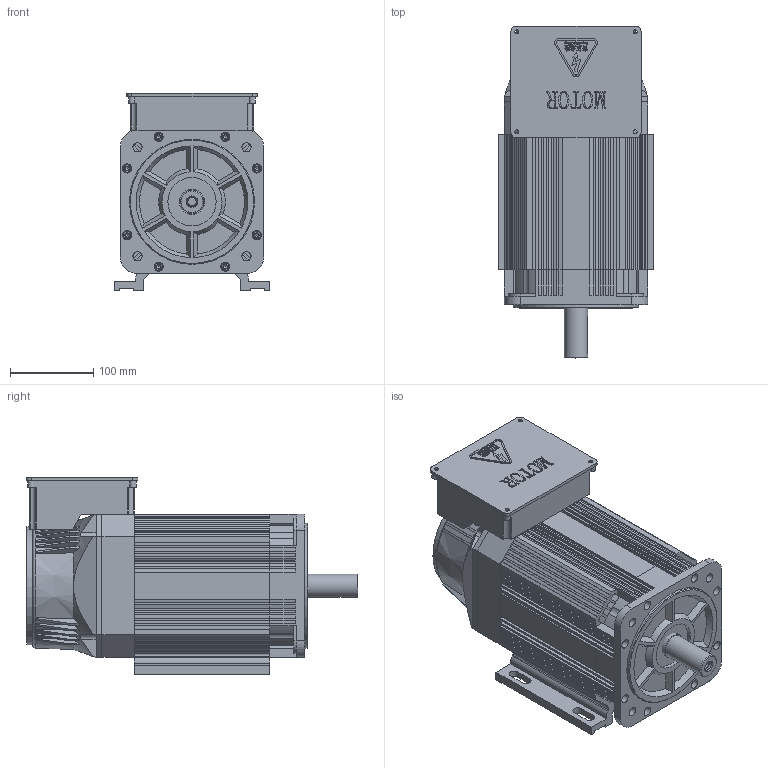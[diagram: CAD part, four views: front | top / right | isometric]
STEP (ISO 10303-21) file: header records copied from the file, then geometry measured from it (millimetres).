
FILE_DESCRIPTION(/* description */ (''),/* implementation_level */ '2;1');
FILE_NAME(/* name */ '172ZJY-4-4-15(加脚).stp',/* time_stamp */ '2024-01-15T11:15:53+08:00',/* author */ (''),/* organization */ (''),/* preprocessor_version */ 'ST-DEVELOPER v18.1',/* originating_system */ 'SIEMENS PLM Software NX 2000',/* authorisation */ '');
FILE_SCHEMA (('AUTOMOTIVE_DESIGN { 1 0 10303 214 3 1 1 1 }'));
Products named in the file (1): 172主轴伺服电机 加脚
Bounding box: 186 x 398 x 237.5 mm (x, y, z)
Volume: 7663052.7 mm3; surface area: 819768.5 mm2
Topology: 15 solids, 15 shells, 2305 faces, 6318 edges, 4159 vertices
Faces by surface type: plane 1346, extrusion 442, cylinder 392, cone 108, torus 17
Full cylindrical faces by diameter (mm): 4.5 x4, 5 x8, 5.3 x8, 5.795 x8, 6 x4, 7 x8, 8 x4, 10 x9, 11 x12, 12 x2, 26 x1, 28 x1, 30 x1, 58 x1, 137 x1, 150 x1
Entity records: 77775 total; most frequent: CARTESIAN_POINT 22140, ORIENTED_EDGE 12300, DIRECTION 9602, EDGE_CURVE 6150, VERTEX_POINT 4114, VECTOR 3798, LINE 3356, AXIS2_PLACEMENT_3D 2902
